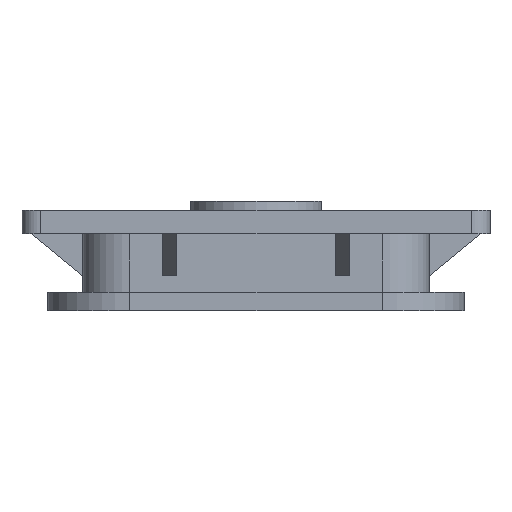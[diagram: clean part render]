
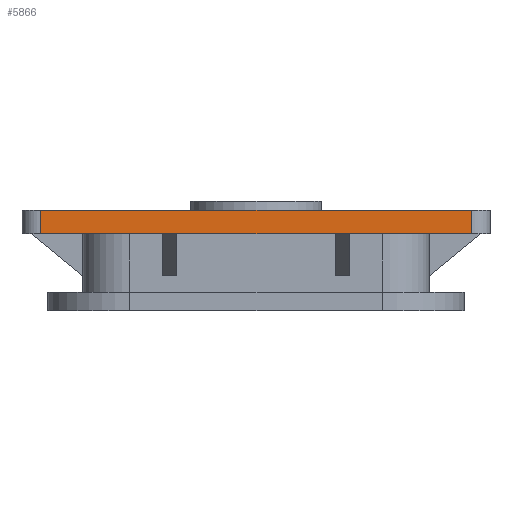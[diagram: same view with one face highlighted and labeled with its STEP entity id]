
A CAD part, left-side view. The second image highlights one B-rep face of the part: STEP entity #5866.
In plain terms, the highlighted planar face has unit normal (-1, 0, 0).
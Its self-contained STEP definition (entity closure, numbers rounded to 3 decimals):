
#2552 = PLANE('',#2553);
#2553 = AXIS2_PLACEMENT_3D('',#2554,#2555,#2556);
#2554 = CARTESIAN_POINT('',(46.5,0.,30.));
#2555 = DIRECTION('',(0.,0.,1.));
#2556 = DIRECTION('',(1.,0.,-0.));
#4114 = EDGE_CURVE('',#4115,#4117,#4119,.T.);
#4115 = VERTEX_POINT('',#4116);
#4116 = CARTESIAN_POINT('',(-33.,-46.,30.));
#4117 = VERTEX_POINT('',#4118);
#4118 = CARTESIAN_POINT('',(-33.,46.,30.));
#4119 = SURFACE_CURVE('',#4120,(#4124,#4131),.PCURVE_S1.);
#4120 = LINE('',#4121,#4122);
#4121 = CARTESIAN_POINT('',(-33.,0.,30.));
#4122 = VECTOR('',#4123,1.);
#4123 = DIRECTION('',(0.,1.,0.));
#4124 = PCURVE('',#2552,#4125);
#4125 = DEFINITIONAL_REPRESENTATION('',(#4126),#4130);
#4126 = LINE('',#4127,#4128);
#4127 = CARTESIAN_POINT('',(-79.5,0.));
#4128 = VECTOR('',#4129,1.);
#4129 = DIRECTION('',(0.,1.));
#4130 = ( GEOMETRIC_REPRESENTATION_CONTEXT(2) 
PARAMETRIC_REPRESENTATION_CONTEXT() REPRESENTATION_CONTEXT('2D SPACE',''
  ) );
#4131 = PCURVE('',#4132,#4137);
#4132 = PLANE('',#4133);
#4133 = AXIS2_PLACEMENT_3D('',#4134,#4135,#4136);
#4134 = CARTESIAN_POINT('',(-33.,-46.,30.));
#4135 = DIRECTION('',(-1.,0.,0.));
#4136 = DIRECTION('',(0.,1.,0.));
#4137 = DEFINITIONAL_REPRESENTATION('',(#4138),#4142);
#4138 = LINE('',#4139,#4140);
#4139 = CARTESIAN_POINT('',(46.,0.));
#4140 = VECTOR('',#4141,1.);
#4141 = DIRECTION('',(1.,0.));
#4142 = ( GEOMETRIC_REPRESENTATION_CONTEXT(2) 
PARAMETRIC_REPRESENTATION_CONTEXT() REPRESENTATION_CONTEXT('2D SPACE',''
  ) );
#4165 = CYLINDRICAL_SURFACE('',#4166,4.);
#4166 = AXIS2_PLACEMENT_3D('',#4167,#4168,#4169);
#4167 = CARTESIAN_POINT('',(-29.,-46.,30.));
#4168 = DIRECTION('',(0.,0.,-1.));
#4169 = DIRECTION('',(-1.,0.,0.));
#4346 = CYLINDRICAL_SURFACE('',#4347,4.);
#4347 = AXIS2_PLACEMENT_3D('',#4348,#4349,#4350);
#4348 = CARTESIAN_POINT('',(-29.,46.,30.));
#4349 = DIRECTION('',(0.,0.,-1.));
#4350 = DIRECTION('',(-1.,0.,0.));
#5866 = ADVANCED_FACE('',(#5867),#4132,.T.);
#5867 = FACE_BOUND('',#5868,.T.);
#5868 = EDGE_LOOP('',(#5869,#5892,#5920,#5941));
#5869 = ORIENTED_EDGE('',*,*,#5870,.T.);
#5870 = EDGE_CURVE('',#4115,#5871,#5873,.T.);
#5871 = VERTEX_POINT('',#5872);
#5872 = CARTESIAN_POINT('',(-33.,-46.,35.));
#5873 = SURFACE_CURVE('',#5874,(#5878,#5885),.PCURVE_S1.);
#5874 = LINE('',#5875,#5876);
#5875 = CARTESIAN_POINT('',(-33.,-46.,30.));
#5876 = VECTOR('',#5877,1.);
#5877 = DIRECTION('',(0.,0.,1.));
#5878 = PCURVE('',#4132,#5879);
#5879 = DEFINITIONAL_REPRESENTATION('',(#5880),#5884);
#5880 = LINE('',#5881,#5882);
#5881 = CARTESIAN_POINT('',(0.,0.));
#5882 = VECTOR('',#5883,1.);
#5883 = DIRECTION('',(0.,-1.));
#5884 = ( GEOMETRIC_REPRESENTATION_CONTEXT(2) 
PARAMETRIC_REPRESENTATION_CONTEXT() REPRESENTATION_CONTEXT('2D SPACE',''
  ) );
#5885 = PCURVE('',#4165,#5886);
#5886 = DEFINITIONAL_REPRESENTATION('',(#5887),#5891);
#5887 = LINE('',#5888,#5889);
#5888 = CARTESIAN_POINT('',(6.283,0.));
#5889 = VECTOR('',#5890,1.);
#5890 = DIRECTION('',(0.,-1.));
#5891 = ( GEOMETRIC_REPRESENTATION_CONTEXT(2) 
PARAMETRIC_REPRESENTATION_CONTEXT() REPRESENTATION_CONTEXT('2D SPACE',''
  ) );
#5892 = ORIENTED_EDGE('',*,*,#5893,.T.);
#5893 = EDGE_CURVE('',#5871,#5894,#5896,.T.);
#5894 = VERTEX_POINT('',#5895);
#5895 = CARTESIAN_POINT('',(-33.,46.,35.));
#5896 = SURFACE_CURVE('',#5897,(#5901,#5908),.PCURVE_S1.);
#5897 = LINE('',#5898,#5899);
#5898 = CARTESIAN_POINT('',(-33.,0.,35.));
#5899 = VECTOR('',#5900,1.);
#5900 = DIRECTION('',(0.,1.,0.));
#5901 = PCURVE('',#4132,#5902);
#5902 = DEFINITIONAL_REPRESENTATION('',(#5903),#5907);
#5903 = LINE('',#5904,#5905);
#5904 = CARTESIAN_POINT('',(46.,-5.));
#5905 = VECTOR('',#5906,1.);
#5906 = DIRECTION('',(1.,0.));
#5907 = ( GEOMETRIC_REPRESENTATION_CONTEXT(2) 
PARAMETRIC_REPRESENTATION_CONTEXT() REPRESENTATION_CONTEXT('2D SPACE',''
  ) );
#5908 = PCURVE('',#5909,#5914);
#5909 = PLANE('',#5910);
#5910 = AXIS2_PLACEMENT_3D('',#5911,#5912,#5913);
#5911 = CARTESIAN_POINT('',(46.5,0.,35.));
#5912 = DIRECTION('',(0.,0.,1.));
#5913 = DIRECTION('',(1.,0.,-0.));
#5914 = DEFINITIONAL_REPRESENTATION('',(#5915),#5919);
#5915 = LINE('',#5916,#5917);
#5916 = CARTESIAN_POINT('',(-79.5,0.));
#5917 = VECTOR('',#5918,1.);
#5918 = DIRECTION('',(0.,1.));
#5919 = ( GEOMETRIC_REPRESENTATION_CONTEXT(2) 
PARAMETRIC_REPRESENTATION_CONTEXT() REPRESENTATION_CONTEXT('2D SPACE',''
  ) );
#5920 = ORIENTED_EDGE('',*,*,#5921,.F.);
#5921 = EDGE_CURVE('',#4117,#5894,#5922,.T.);
#5922 = SURFACE_CURVE('',#5923,(#5927,#5934),.PCURVE_S1.);
#5923 = LINE('',#5924,#5925);
#5924 = CARTESIAN_POINT('',(-33.,46.,30.));
#5925 = VECTOR('',#5926,1.);
#5926 = DIRECTION('',(0.,0.,1.));
#5927 = PCURVE('',#4132,#5928);
#5928 = DEFINITIONAL_REPRESENTATION('',(#5929),#5933);
#5929 = LINE('',#5930,#5931);
#5930 = CARTESIAN_POINT('',(92.,0.));
#5931 = VECTOR('',#5932,1.);
#5932 = DIRECTION('',(0.,-1.));
#5933 = ( GEOMETRIC_REPRESENTATION_CONTEXT(2) 
PARAMETRIC_REPRESENTATION_CONTEXT() REPRESENTATION_CONTEXT('2D SPACE',''
  ) );
#5934 = PCURVE('',#4346,#5935);
#5935 = DEFINITIONAL_REPRESENTATION('',(#5936),#5940);
#5936 = LINE('',#5937,#5938);
#5937 = CARTESIAN_POINT('',(0.,0.));
#5938 = VECTOR('',#5939,1.);
#5939 = DIRECTION('',(0.,-1.));
#5940 = ( GEOMETRIC_REPRESENTATION_CONTEXT(2) 
PARAMETRIC_REPRESENTATION_CONTEXT() REPRESENTATION_CONTEXT('2D SPACE',''
  ) );
#5941 = ORIENTED_EDGE('',*,*,#4114,.F.);
